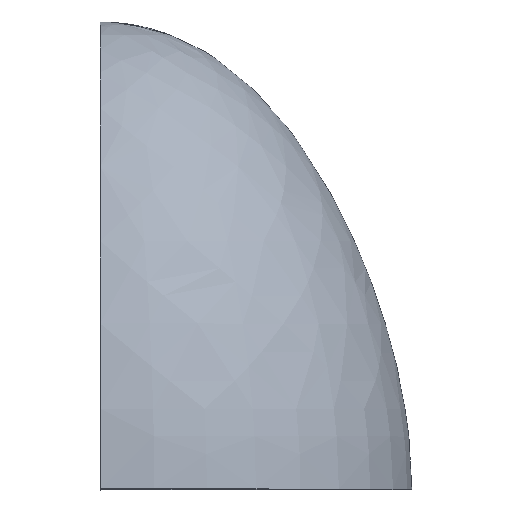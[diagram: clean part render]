
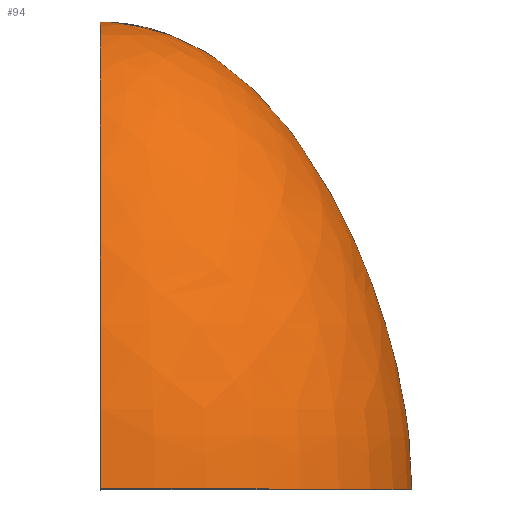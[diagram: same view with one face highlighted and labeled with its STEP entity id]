
A CAD part, top view. The second image highlights one B-rep face of the part: STEP entity #94.
In plain terms, the highlighted face is a revolution surface.
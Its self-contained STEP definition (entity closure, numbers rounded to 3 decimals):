
#52=CARTESIAN_POINT('Control Point',(0.,0.,80.)) ;
#53=CARTESIAN_POINT('Control Point',(0.,28.844,80.)) ;
#54=CARTESIAN_POINT('Control Point',(0.,62.45,70.817)) ;
#55=CARTESIAN_POINT('Control Point',(0.,100.817,52.45)) ;
#56=CARTESIAN_POINT('Control Point',(0.,120.,28.844)) ;
#57=CARTESIAN_POINT('Control Point',(0.,120.,0.)) ;
#58=CARTESIAN_POINT('Axis1P Location',(0.,0.,0.)) ;
#63=CARTESIAN_POINT('Control Point',(0.,0.,-80.)) ;
#64=CARTESIAN_POINT('Control Point',(0.,28.844,-80.)) ;
#65=CARTESIAN_POINT('Control Point',(0.,62.45,-70.817)) ;
#66=CARTESIAN_POINT('Control Point',(0.,100.817,-52.45)) ;
#67=CARTESIAN_POINT('Control Point',(0.,120.,-28.844)) ;
#68=CARTESIAN_POINT('Control Point',(0.,120.,0.)) ;
#69=CARTESIAN_POINT('Vertex',(0.,0.,-80.)) ;
#71=CARTESIAN_POINT('Vertex',(0.,120.,0.)) ;
#75=CARTESIAN_POINT('Control Point',(0.,0.,80.)) ;
#76=CARTESIAN_POINT('Control Point',(0.,28.844,80.)) ;
#77=CARTESIAN_POINT('Control Point',(0.,62.45,70.817)) ;
#78=CARTESIAN_POINT('Control Point',(0.,100.817,52.45)) ;
#79=CARTESIAN_POINT('Control Point',(0.,120.,28.844)) ;
#80=CARTESIAN_POINT('Control Point',(0.,120.,0.)) ;
#81=CARTESIAN_POINT('Vertex',(0.,0.,80.)) ;
#84=CARTESIAN_POINT('Axis2P3D Location',(0.,0.,0.)) ;
#59=DIRECTION('Axis1P Direction',(0.,1.,0.)) ;
#85=DIRECTION('Axis2P3D Direction',(0.,1.,0.)) ;
#86=AXIS2_PLACEMENT_3D('Circle Axis2P3D',#84,#85,$) ;
#90=ORIENTED_EDGE('',*,*,#73,.T.) ;
#91=ORIENTED_EDGE('',*,*,#83,.F.) ;
#92=ORIENTED_EDGE('',*,*,#88,.T.) ;
#94=ADVANCED_FACE('PartBody',(#93),#61,.T.) ;
#60=AXIS1_PLACEMENT('Revolution Surface Axis1P',#58,#59) ;
#51=B_SPLINE_CURVE_WITH_KNOTS('',5,(#52,#53,#54,#55,#56,#57),.UNSPECIFIED.,.F.,.U.,(6,6),(0.,144.222),.UNSPECIFIED.) ;
#62=B_SPLINE_CURVE_WITH_KNOTS('',5,(#63,#64,#65,#66,#67,#68),.UNSPECIFIED.,.F.,.U.,(6,6),(0.,144.222),.UNSPECIFIED.) ;
#74=B_SPLINE_CURVE_WITH_KNOTS('',5,(#75,#76,#77,#78,#79,#80),.UNSPECIFIED.,.F.,.U.,(6,6),(0.,144.222),.UNSPECIFIED.) ;
#87=CIRCLE('generated circle',#86,80.) ;
#73=EDGE_CURVE('',#70,#72,#62,.T.) ;
#83=EDGE_CURVE('',#82,#72,#74,.T.) ;
#88=EDGE_CURVE('',#82,#70,#87,.T.) ;
#89=EDGE_LOOP('',(#90,#91,#92)) ;
#93=FACE_OUTER_BOUND('',#89,.T.) ;
#61=SURFACE_OF_REVOLUTION('Surface of Revolution',#51,#60) ;
#70=VERTEX_POINT('',#69) ;
#72=VERTEX_POINT('',#71) ;
#82=VERTEX_POINT('',#81) ;
